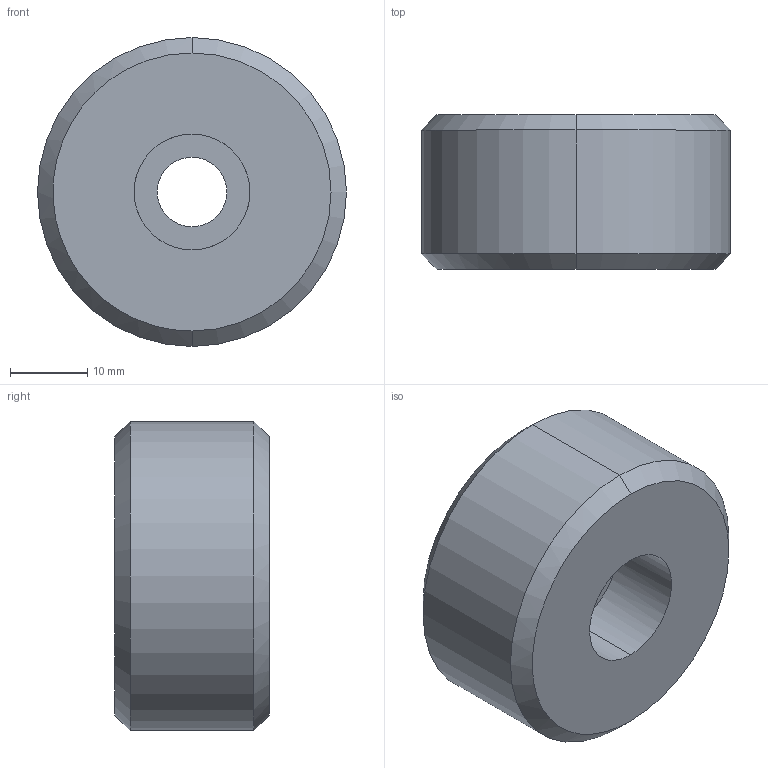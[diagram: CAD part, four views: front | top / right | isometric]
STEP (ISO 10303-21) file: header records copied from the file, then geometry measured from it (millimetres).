
FILE_DESCRIPTION(('CATIA V5 STEP Exchange'),'2;1');
FILE_NAME('C:\Users\Utente\Desktop\IO LAVORO\3D X SITO CF\X 3D SITO CF 27-09-2020\758\758+40+20+10.stp','2020-10-28T19:26:40+00:00',('none'),('none'),'CATIA Version 5 Release 20 GA (IN-10)','CATIA V5 STEP AP203','none');
FILE_SCHEMA(('CONFIG_CONTROL_DESIGN'));
Length unit declared in the file: millimetre
Products named in the file (1): 758+40+20+10
Bounding box: 40 x 20 x 40 mm (x, y, z)
Volume: 22243.5 mm3; surface area: 5348.4 mm2
Topology: 1 solids, 1 shells, 13 faces, 26 edges, 16 vertices
Faces by surface type: cylinder 6, cone 4, plane 3
Entity records: 515 total; most frequent: CARTESIAN_POINT 211, ORIENTED_EDGE 52, DIRECTION 45, EDGE_CURVE 26, AXIS2_PLACEMENT_3D 23, EDGE_LOOP 16, VERTEX_POINT 16, ADVANCED_FACE 13
